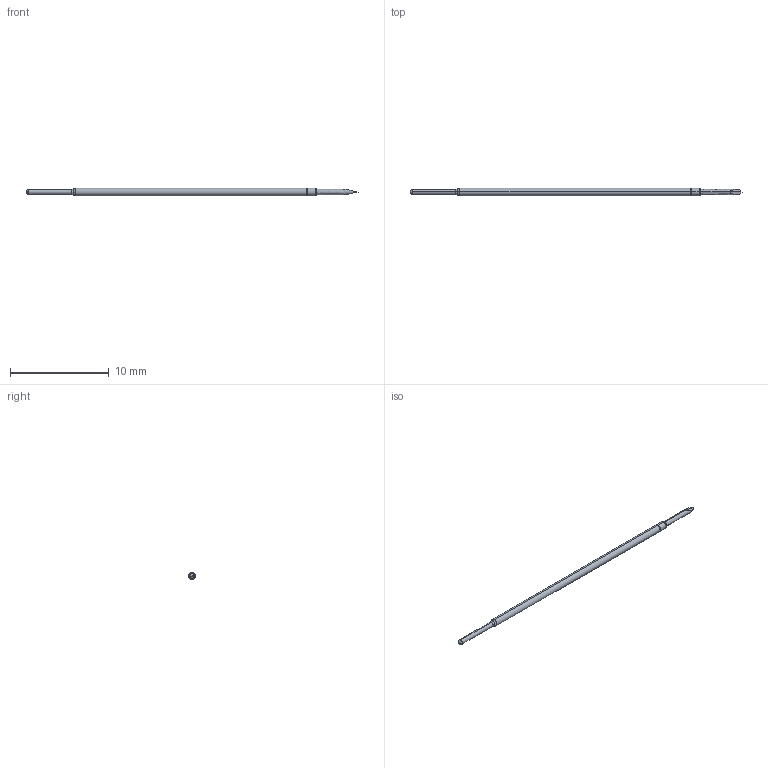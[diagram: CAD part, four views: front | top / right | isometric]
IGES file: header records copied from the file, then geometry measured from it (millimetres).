
Start section: SolidWorks IGES file using analytic representation for surfaces
Global section: file name: C:\Documents and Settings\mrumschlag\Desktop\changes\new\test\I RECD.IGS; native system: SolidWorks 2011; preprocessor: SolidWorks 2011; author: mrumschlag; date: 110630.142732; units: inch
Bounding box: 33.69 x 0.76 x 0.76 mm (x, y, z)
Surface area: 73.5 mm2 (no closed solid volume)
Topology: 0 solids, 0 shells, 27 faces, 166 edges, 164 vertices
Faces by surface type: revolution 14, bspline 13
